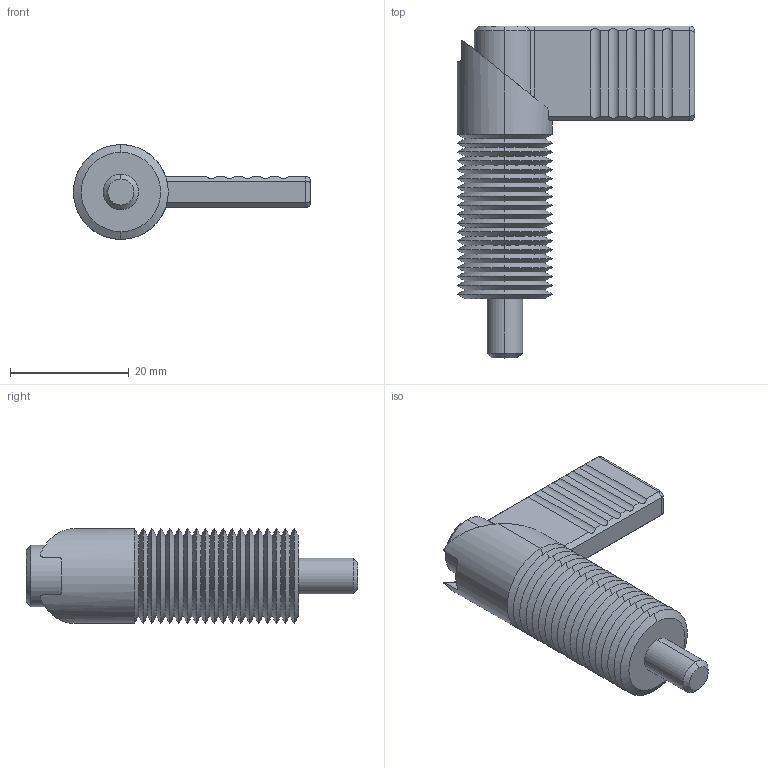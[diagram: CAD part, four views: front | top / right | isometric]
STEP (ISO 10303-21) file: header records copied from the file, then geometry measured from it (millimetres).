
FILE_DESCRIPTION (( 'STEP AP203' ), '1' );
FILE_NAME ('32501.W0326.step', '2016-02-10T17:20:22', ( 'User' ), ( '' ), 'SwSTEP 2.0', 'SolidWorks 2009', '' );
FILE_SCHEMA (( 'CONFIG_CONTROL_DESIGN' ));
Length unit declared in the file: millimetre
Products named in the file (3): Part1_32501.W0326; 32501.W0326; Part2_32501.W0326
Assembly tree (2 placements, depth 2):
  32501.W0326
    Part1_32501.W0326
    Part2_32501.W0326
Bounding box: 40 x 56 x 16 mm (x, y, z)
Volume: 7779.9 mm3; surface area: 7098 mm2
Topology: 2 solids, 2 shells, 155 faces, 344 edges, 196 vertices
Faces by surface type: cone 88, cylinder 41, plane 26
Entity records: 4569 total; most frequent: CARTESIAN_POINT 888, DIRECTION 746, ORIENTED_EDGE 688, EDGE_CURVE 344, AXIS2_PLACEMENT_3D 284, VERTEX_POINT 196, LINE 178, VECTOR 178
